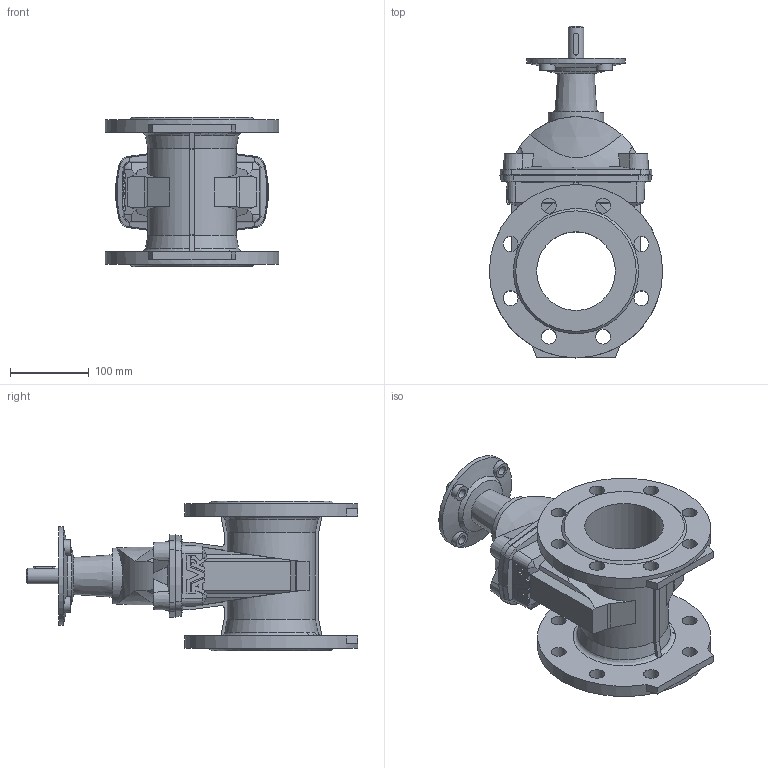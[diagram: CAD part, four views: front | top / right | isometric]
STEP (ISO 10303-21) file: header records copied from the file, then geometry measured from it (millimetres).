
FILE_DESCRIPTION (( 'STEP AP203' ), '1' );
FILE_NAME ('O_15_42_DN100_X1XXX099_AA0.step', '2017-03-10T08:37:56', ( 'Windows User' ), ( 'AVK' ), 'SwSTEP 2.0', 'SolidWorks 2012', '' );
FILE_SCHEMA (( 'CONFIG_CONTROL_DESIGN' ));
Length unit declared in the file: inch
Products named in the file (1): O_15_42_DN100_X1XXX099_AA0
Bounding box: 220 x 421.43 x 190 mm (x, y, z)
Volume: 3400085.6 mm3; surface area: 427597.4 mm2
Topology: 1 solids, 1 shells, 327 faces, 920 edges, 608 vertices
Faces by surface type: plane 143, cylinder 91, cone 89, torus 2, sphere 2
Full cylindrical faces by diameter (mm): 12 x4, 19 x16, 20 x5, 22 x1, 71 x1, 100 x1, 125 x1, 220 x2
Entity records: 11513 total; most frequent: CARTESIAN_POINT 3219, ORIENTED_EDGE 1698, DIRECTION 1686, EDGE_CURVE 849, AXIS2_PLACEMENT_3D 620, VERTEX_POINT 581, LINE 446, VECTOR 446
